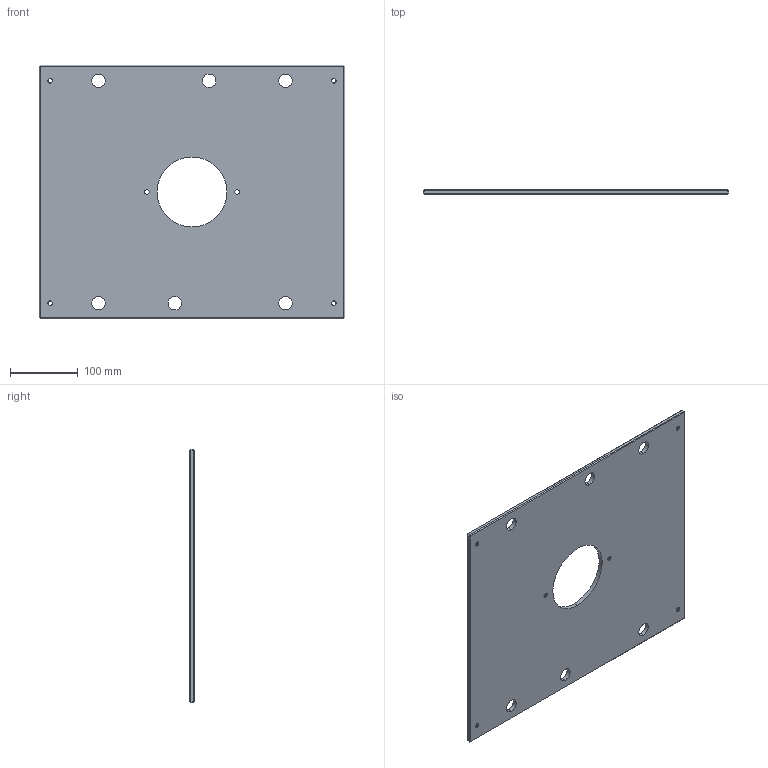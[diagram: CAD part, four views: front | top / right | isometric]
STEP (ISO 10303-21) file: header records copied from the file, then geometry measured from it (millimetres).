
FILE_DESCRIPTION (( 'STEP AP214' ), '1' );
FILE_NAME ('ME-0619-CH-1518-B.STEP', '2020-02-11T15:38:26', ( '' ), ( '' ), 'SwSTEP 2.0', 'SolidWorks 2018', '' );
FILE_SCHEMA (( 'AUTOMOTIVE_DESIGN' ));
Length unit declared in the file: inch
Products named in the file (1): ME-0619-CH-1518-B
Bounding box: 450.85 x 6.35 x 374.65 mm (x, y, z)
Volume: 1002306.3 mm3; surface area: 330060.3 mm2
Topology: 1 solids, 1 shells, 64 faces, 150 edges, 88 vertices
Faces by surface type: cylinder 26, plane 26, cone 12
Entity records: 1902 total; most frequent: DIRECTION 344, CARTESIAN_POINT 303, ORIENTED_EDGE 300, EDGE_CURVE 150, AXIS2_PLACEMENT_3D 129, EDGE_LOOP 90, VERTEX_POINT 88, LINE 86
